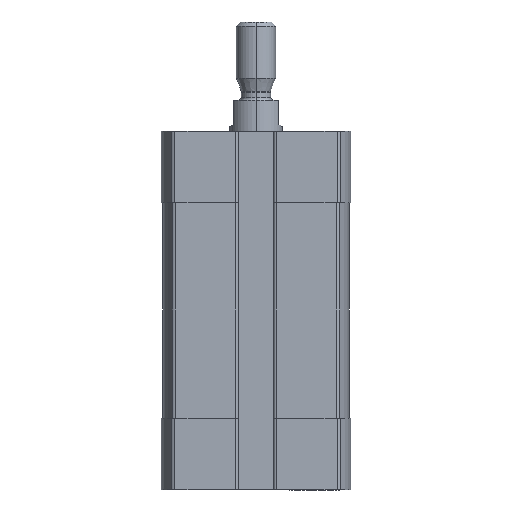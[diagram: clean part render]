
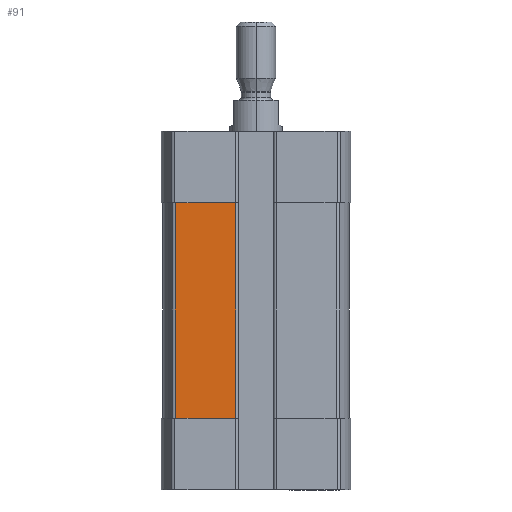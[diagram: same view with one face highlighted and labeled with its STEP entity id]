
A CAD part, left-side view. The second image highlights one B-rep face of the part: STEP entity #91.
In plain terms, the highlighted planar face has unit normal (-1, 0, 0).
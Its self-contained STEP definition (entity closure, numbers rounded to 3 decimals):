
#91 = ADVANCED_FACE ( 'NONE', ( #1603 ), #11581, .T. ) ;
#112 = ORIENTED_EDGE ( 'NONE', *, *, #2336, .T. ) ;
#503 = CARTESIAN_POINT ( 'NONE',  ( -14.25, 3.1, -44. ) ) ;
#841 = LINE ( 'NONE', #7076, #7717 ) ;
#1525 = LINE ( 'NONE', #5751, #10563 ) ;
#1540 = DIRECTION ( 'NONE',  ( 0., 0., 1. ) ) ;
#1603 = FACE_OUTER_BOUND ( 'NONE', #5469, .T. ) ;
#2085 = LINE ( 'NONE', #8667, #11382 ) ;
#2336 = EDGE_CURVE ( 'NONE', #10964, #4378, #2085, .T. ) ;
#2508 = VERTEX_POINT ( 'NONE', #503 ) ;
#2598 = LINE ( 'NONE', #8340, #4682 ) ;
#2711 = EDGE_CURVE ( 'NONE', #4378, #2508, #841, .T. ) ;
#3175 = CARTESIAN_POINT ( 'NONE',  ( -14.25, 12.347, -11. ) ) ;
#3707 = EDGE_CURVE ( 'NONE', #2508, #9731, #1525, .T. ) ;
#3781 = ORIENTED_EDGE ( 'NONE', *, *, #2711, .T. ) ;
#4378 = VERTEX_POINT ( 'NONE', #11325 ) ;
#4682 = VECTOR ( 'NONE', #6573, 1000. ) ;
#4910 = CARTESIAN_POINT ( 'NONE',  ( -14.25, 12.347, -44. ) ) ;
#4966 = DIRECTION ( 'NONE',  ( -1., 0., 0. ) ) ;
#4989 = DIRECTION ( 'NONE',  ( 0., 0., -1. ) ) ;
#5186 = EDGE_CURVE ( 'NONE', #9731, #10964, #2598, .T. ) ;
#5247 = CARTESIAN_POINT ( 'NONE',  ( -14.25, 3.1, -11. ) ) ;
#5469 = EDGE_LOOP ( 'NONE', ( #3781, #10244, #7160, #112 ) ) ;
#5751 = CARTESIAN_POINT ( 'NONE',  ( -14.25, 3.1, -44. ) ) ;
#6573 = DIRECTION ( 'NONE',  ( 0., 1., 0. ) ) ;
#7076 = CARTESIAN_POINT ( 'NONE',  ( -14.25, 12.347, -44. ) ) ;
#7160 = ORIENTED_EDGE ( 'NONE', *, *, #5186, .T. ) ;
#7289 = AXIS2_PLACEMENT_3D ( 'NONE', #4910, #4966, #1540 ) ;
#7717 = VECTOR ( 'NONE', #10721, 1000. ) ;
#8340 = CARTESIAN_POINT ( 'NONE',  ( -14.25, 0., -11. ) ) ;
#8420 = DIRECTION ( 'NONE',  ( 0., 0., 1. ) ) ;
#8667 = CARTESIAN_POINT ( 'NONE',  ( -14.25, 12.347, -44. ) ) ;
#9731 = VERTEX_POINT ( 'NONE', #5247 ) ;
#10244 = ORIENTED_EDGE ( 'NONE', *, *, #3707, .T. ) ;
#10563 = VECTOR ( 'NONE', #8420, 1000. ) ;
#10721 = DIRECTION ( 'NONE',  ( 0., -1., 0. ) ) ;
#10964 = VERTEX_POINT ( 'NONE', #3175 ) ;
#11325 = CARTESIAN_POINT ( 'NONE',  ( -14.25, 12.347, -44. ) ) ;
#11382 = VECTOR ( 'NONE', #4989, 1000. ) ;
#11581 = PLANE ( 'NONE',  #7289 ) ;
